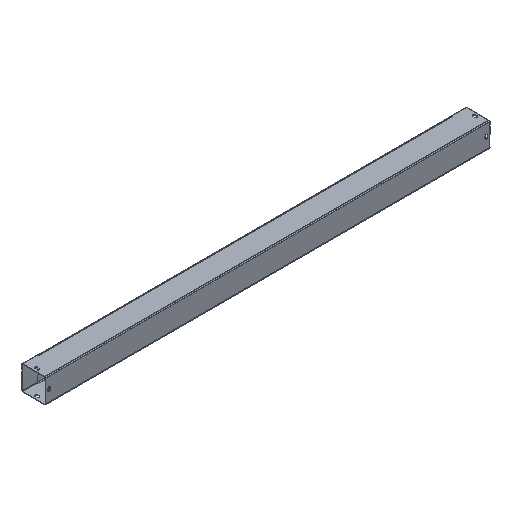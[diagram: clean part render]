
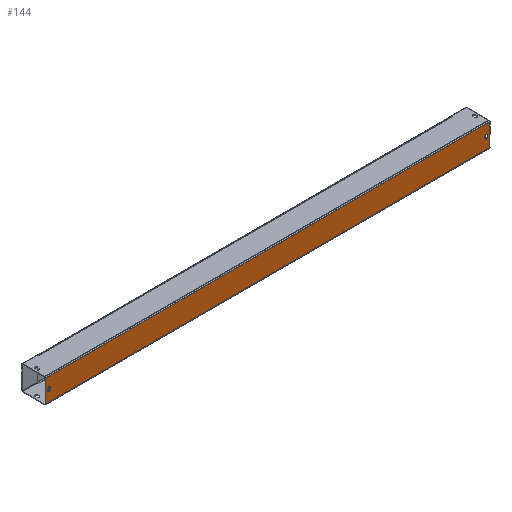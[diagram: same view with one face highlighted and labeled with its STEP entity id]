
A CAD part, isometric view. The second image highlights one B-rep face of the part: STEP entity #144.
In plain terms, the highlighted planar face has unit normal (0, -1, 0).
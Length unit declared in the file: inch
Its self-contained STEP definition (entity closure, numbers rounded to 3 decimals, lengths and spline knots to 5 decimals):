
#5 = CARTESIAN_POINT ( 'NONE',  ( 23.75, 0., -0.094 ) ) ;
#6 = DIRECTION ( 'NONE',  ( 0., 0., -1. ) ) ;
#7 = VECTOR ( 'NONE', #6, 39.37008 ) ;
#8 = CARTESIAN_POINT ( 'NONE',  ( 23.75, 0., 0.094 ) ) ;
#9 = LINE ( 'NONE', #8, #7 ) ;
#51 = DIRECTION ( 'NONE',  ( 0., 0., -1. ) ) ;
#52 = VECTOR ( 'NONE', #51, 39.37008 ) ;
#53 = CARTESIAN_POINT ( 'NONE',  ( 24., 0., 1.325 ) ) ;
#54 = LINE ( 'NONE', #53, #52 ) ;
#59 = CARTESIAN_POINT ( 'NONE',  ( 23.5, 0., 0.094 ) ) ;
#60 = DIRECTION ( 'NONE',  ( 0., 0., -1. ) ) ;
#61 = DIRECTION ( 'NONE',  ( 0., 1., 0. ) ) ;
#62 = CARTESIAN_POINT ( 'NONE',  ( 23.625, 0., 0.094 ) ) ;
#63 = AXIS2_PLACEMENT_3D ( 'NONE', #62, #61, #60 ) ;
#64 = CIRCLE ( 'NONE', #63, 0.125 ) ;
#65 = DIRECTION ( 'NONE',  ( 0., 0., -1. ) ) ;
#66 = DIRECTION ( 'NONE',  ( 0., -1., 0. ) ) ;
#67 = CARTESIAN_POINT ( 'NONE',  ( -24., 0., 1.325 ) ) ;
#68 = AXIS2_PLACEMENT_3D ( 'NONE', #67, #66, #65 ) ;
#69 = PLANE ( 'NONE',  #68 ) ;
#70 = FACE_OUTER_BOUND ( 'NONE', #5516, .T. ) ;
#71 = FACE_BOUND ( 'NONE', #178, .T. ) ;
#72 = FACE_BOUND ( 'NONE', #133, .T. ) ;
#73 = CARTESIAN_POINT ( 'NONE',  ( 24., 0., 1.21 ) ) ;
#83 = CARTESIAN_POINT ( 'NONE',  ( 24., 0., -1.21 ) ) ;
#133 = EDGE_LOOP ( 'NONE', ( #145, #148, #170, #173, #176 ) ) ;
#136 = VERTEX_POINT ( 'NONE', #83 ) ;
#142 = VERTEX_POINT ( 'NONE', #73 ) ;
#144 = ADVANCED_FACE ( 'NONE', ( #72, #71, #70 ), #69, .T. ) ;
#145 = ORIENTED_EDGE ( 'NONE', *, *, #146, .T. ) ;
#146 = EDGE_CURVE ( 'NONE', #147, #5443, #64, .T. ) ;
#147 = VERTEX_POINT ( 'NONE', #59 ) ;
#148 = ORIENTED_EDGE ( 'NONE', *, *, #5442, .T. ) ;
#150 = EDGE_CURVE ( 'NONE', #142, #136, #54, .T. ) ;
#170 = ORIENTED_EDGE ( 'NONE', *, *, #171, .T. ) ;
#171 = EDGE_CURVE ( 'NONE', #5444, #172, #9, .T. ) ;
#172 = VERTEX_POINT ( 'NONE', #5 ) ;
#173 = ORIENTED_EDGE ( 'NONE', *, *, #174, .T. ) ;
#174 = EDGE_CURVE ( 'NONE', #172, #175, #379, .T. ) ;
#175 = VERTEX_POINT ( 'NONE', #374 ) ;
#176 = ORIENTED_EDGE ( 'NONE', *, *, #177, .T. ) ;
#177 = EDGE_CURVE ( 'NONE', #175, #147, #434, .T. ) ;
#178 = EDGE_LOOP ( 'NONE', ( #179, #183, #5511, #5513, #5514 ) ) ;
#179 = ORIENTED_EDGE ( 'NONE', *, *, #180, .T. ) ;
#180 = EDGE_CURVE ( 'NONE', #181, #182, #430, .T. ) ;
#181 = VERTEX_POINT ( 'NONE', #425 ) ;
#182 = VERTEX_POINT ( 'NONE', #424 ) ;
#183 = ORIENTED_EDGE ( 'NONE', *, *, #5509, .T. ) ;
#187 = VERTEX_POINT ( 'NONE', #418 ) ;
#189 = EDGE_CURVE ( 'NONE', #187, #190, #417, .T. ) ;
#190 = VERTEX_POINT ( 'NONE', #413 ) ;
#227 = ORIENTED_EDGE ( 'NONE', *, *, #150, .F. ) ;
#228 = ORIENTED_EDGE ( 'NONE', *, *, #229, .T. ) ;
#229 = EDGE_CURVE ( 'NONE', #142, #190, #444, .T. ) ;
#374 = CARTESIAN_POINT ( 'NONE',  ( 23.5, 0., -0.094 ) ) ;
#375 = DIRECTION ( 'NONE',  ( 0., 0., 1. ) ) ;
#376 = DIRECTION ( 'NONE',  ( 0., 1., 0. ) ) ;
#377 = CARTESIAN_POINT ( 'NONE',  ( 23.625, 0., -0.094 ) ) ;
#378 = AXIS2_PLACEMENT_3D ( 'NONE', #377, #376, #375 ) ;
#379 = CIRCLE ( 'NONE', #378, 0.125 ) ;
#413 = CARTESIAN_POINT ( 'NONE',  ( -24., 0., 1.21 ) ) ;
#414 = DIRECTION ( 'NONE',  ( 0., 0., 1. ) ) ;
#415 = VECTOR ( 'NONE', #414, 39.37008 ) ;
#416 = CARTESIAN_POINT ( 'NONE',  ( -24., 0., 1.325 ) ) ;
#417 = LINE ( 'NONE', #416, #415 ) ;
#418 = CARTESIAN_POINT ( 'NONE',  ( -24., 0., -1.21 ) ) ;
#424 = CARTESIAN_POINT ( 'NONE',  ( -23.75, 0., -0.094 ) ) ;
#425 = CARTESIAN_POINT ( 'NONE',  ( -23.5, 0., -0.094 ) ) ;
#426 = DIRECTION ( 'NONE',  ( 0., 0., -1. ) ) ;
#427 = DIRECTION ( 'NONE',  ( 0., 1., 0. ) ) ;
#428 = CARTESIAN_POINT ( 'NONE',  ( -23.625, 0., -0.094 ) ) ;
#429 = AXIS2_PLACEMENT_3D ( 'NONE', #428, #427, #426 ) ;
#430 = CIRCLE ( 'NONE', #429, 0.125 ) ;
#431 = DIRECTION ( 'NONE',  ( 0., 0., 1. ) ) ;
#432 = VECTOR ( 'NONE', #431, 39.37008 ) ;
#433 = CARTESIAN_POINT ( 'NONE',  ( 23.5, 0., -0.094 ) ) ;
#434 = LINE ( 'NONE', #433, #432 ) ;
#441 = DIRECTION ( 'NONE',  ( -1., 0., 0. ) ) ;
#442 = VECTOR ( 'NONE', #441, 39.37008 ) ;
#443 = CARTESIAN_POINT ( 'NONE',  ( 24., 0., 1.21 ) ) ;
#444 = LINE ( 'NONE', #443, #442 ) ;
#3058 = DIRECTION ( 'NONE',  ( 1., 0., 0. ) ) ;
#3059 = VECTOR ( 'NONE', #3058, 39.37008 ) ;
#3060 = CARTESIAN_POINT ( 'NONE',  ( -24., 0., -1.21 ) ) ;
#3061 = LINE ( 'NONE', #3060, #3059 ) ;
#3062 = DIRECTION ( 'NONE',  ( 0., 0., -1. ) ) ;
#3063 = VECTOR ( 'NONE', #3062, 39.37008 ) ;
#3064 = CARTESIAN_POINT ( 'NONE',  ( -23.5, 0., -0.094 ) ) ;
#3065 = LINE ( 'NONE', #3064, #3063 ) ;
#3101 = DIRECTION ( 'NONE',  ( 0., 0., 1. ) ) ;
#3102 = DIRECTION ( 'NONE',  ( 0., 1., 0. ) ) ;
#3103 = CARTESIAN_POINT ( 'NONE',  ( -23.625, 0., 0.094 ) ) ;
#3104 = AXIS2_PLACEMENT_3D ( 'NONE', #3103, #3102, #3101 ) ;
#3105 = CIRCLE ( 'NONE', #3104, 0.125 ) ;
#3106 = CARTESIAN_POINT ( 'NONE',  ( -23.75, 0., 0.094 ) ) ;
#3107 = DIRECTION ( 'NONE',  ( 0., 0., 1. ) ) ;
#3108 = VECTOR ( 'NONE', #3107, 39.37008 ) ;
#3109 = CARTESIAN_POINT ( 'NONE',  ( -23.75, 0., 0.094 ) ) ;
#3110 = LINE ( 'NONE', #3109, #3108 ) ;
#3173 = CARTESIAN_POINT ( 'NONE',  ( 23.75, 0., 0.094 ) ) ;
#3174 = CARTESIAN_POINT ( 'NONE',  ( 23.625, 0., 0.219 ) ) ;
#3175 = DIRECTION ( 'NONE',  ( 0., 0., -1. ) ) ;
#3176 = DIRECTION ( 'NONE',  ( 0., 1., 0. ) ) ;
#3177 = AXIS2_PLACEMENT_3D ( 'NONE', #3180, #3176, #3175 ) ;
#3178 = CIRCLE ( 'NONE', #3177, 0.125 ) ;
#3180 = CARTESIAN_POINT ( 'NONE',  ( 23.625, 0., 0.094 ) ) ;
#3632 = CARTESIAN_POINT ( 'NONE',  ( -23.5, 0., 0.094 ) ) ;
#3633 = CARTESIAN_POINT ( 'NONE',  ( -23.625, 0., 0.219 ) ) ;
#3634 = DIRECTION ( 'NONE',  ( 0., 0., 1. ) ) ;
#3635 = DIRECTION ( 'NONE',  ( 0., 1., 0. ) ) ;
#3636 = AXIS2_PLACEMENT_3D ( 'NONE', #3643, #3635, #3634 ) ;
#3637 = CIRCLE ( 'NONE', #3636, 0.125 ) ;
#3643 = CARTESIAN_POINT ( 'NONE',  ( -23.625, 0., 0.094 ) ) ;
#5315 = EDGE_CURVE ( 'NONE', #5316, #5317, #3637, .T. ) ;
#5316 = VERTEX_POINT ( 'NONE', #3633 ) ;
#5317 = VERTEX_POINT ( 'NONE', #3632 ) ;
#5442 = EDGE_CURVE ( 'NONE', #5443, #5444, #3178, .T. ) ;
#5443 = VERTEX_POINT ( 'NONE', #3174 ) ;
#5444 = VERTEX_POINT ( 'NONE', #3173 ) ;
#5509 = EDGE_CURVE ( 'NONE', #182, #5510, #3110, .T. ) ;
#5510 = VERTEX_POINT ( 'NONE', #3106 ) ;
#5511 = ORIENTED_EDGE ( 'NONE', *, *, #5512, .T. ) ;
#5512 = EDGE_CURVE ( 'NONE', #5510, #5316, #3105, .T. ) ;
#5513 = ORIENTED_EDGE ( 'NONE', *, *, #5315, .T. ) ;
#5514 = ORIENTED_EDGE ( 'NONE', *, *, #5515, .T. ) ;
#5515 = EDGE_CURVE ( 'NONE', #5317, #181, #3065, .T. ) ;
#5516 = EDGE_LOOP ( 'NONE', ( #5517, #5518, #227, #228 ) ) ;
#5517 = ORIENTED_EDGE ( 'NONE', *, *, #189, .F. ) ;
#5518 = ORIENTED_EDGE ( 'NONE', *, *, #5519, .T. ) ;
#5519 = EDGE_CURVE ( 'NONE', #187, #136, #3061, .T. ) ;
